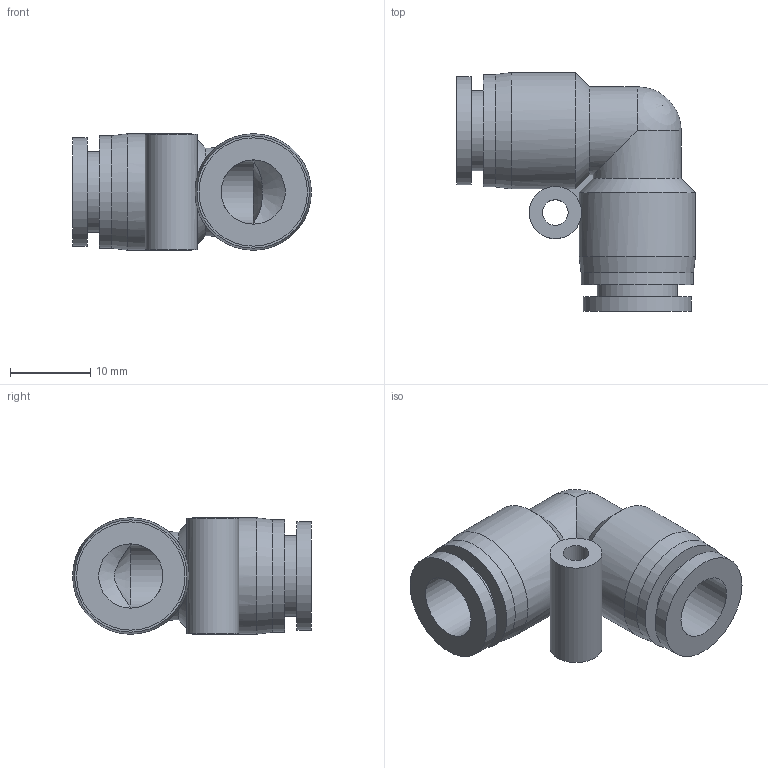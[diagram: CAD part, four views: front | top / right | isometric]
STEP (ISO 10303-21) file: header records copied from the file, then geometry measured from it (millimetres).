
FILE_DESCRIPTION((''),'2;1');
FILE_NAME('S:\UTecnico\ArchivioUT\Speciali Clienti\Speciali KONFIT\Plastica\RP\RP 54\RP540008.stp','2012-05-15T10:11:10',('UT5'),(''),'Autodesk Inventor 2012','Autodesk Inventor 2012','');
FILE_SCHEMA(('AUTOMOTIVE_DESIGN { 1 0 10303 214 1 1 1 1 }'));
Length unit declared in the file: millimetre
Products named in the file (1): RP540008
Bounding box: 29.75 x 29.75 x 14.5 mm (x, y, z)
Volume: 4181.2 mm3; surface area: 3892.9 mm2
Topology: 1 solids, 1 shells, 31 faces, 73 edges, 47 vertices
Faces by surface type: cylinder 14, plane 10, cone 6, sphere 1
Full cylindrical faces by diameter (mm): 3.2 x1, 6.5 x1, 8 x2, 10 x2, 13.5 x2, 14 x2, 14.5 x2
Entity records: 908 total; most frequent: CARTESIAN_POINT 232, DIRECTION 138, ORIENTED_EDGE 98, AXIS2_PLACEMENT_3D 65, EDGE_LOOP 54, EDGE_CURVE 49, VERTEX_POINT 39, FACE_OUTER_BOUND 31
